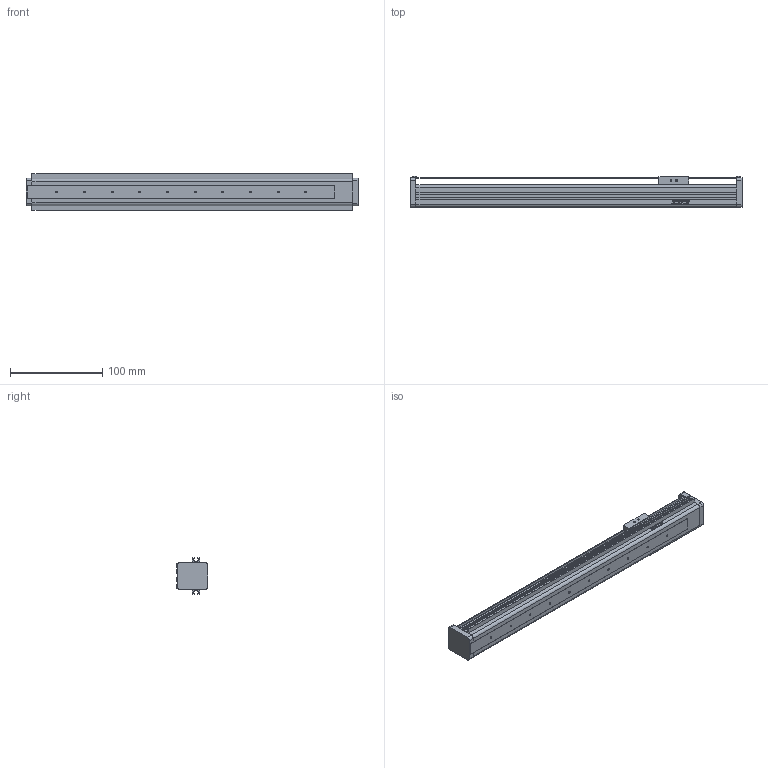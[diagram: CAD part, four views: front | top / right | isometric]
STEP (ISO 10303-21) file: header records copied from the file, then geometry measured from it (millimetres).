
FILE_DESCRIPTION(/* description */ (''),/* implementation_level */ '2;1');
FILE_NAME(/* name */ 'D:\混合母檔20191031\混和母檔\混和母檔\bin\Debug\Download\3D\KE301C-250AF0\KE301C-250AF0.stp',/* time_stamp */ '2019-11-04T13:30:23+08:00',/* author */ ('user'),/* organization */ (''),/* preprocessor_version */ 'ST-DEVELOPER v16.13',/* originating_system */ 'Autodesk Inventor 2018',/* authorisation */ '');
FILE_SCHEMA (('AUTOMOTIVE_DESIGN { 1 0 10303 214 3 1 1 }'));
Length unit declared in the file: millimetre
Products named in the file (3): KE301C-250AF0; KE30-F0-BP; KE30-SL
Assembly tree (2 placements, depth 2):
  KE301C-250AF0
    KE30-F0-BP
    KE30-SL
Bounding box: 360 x 33.67 x 39.6 mm (x, y, z)
Volume: 273292.3 mm3; surface area: 73037.1 mm2
Topology: 2 solids, 6 shells, 465 faces, 1267 edges, 830 vertices
Faces by surface type: plane 264, bspline 114, cylinder 57, cone 22, torus 8
Full cylindrical faces by diameter (mm): 2.013 x4, 2.113 x10, 2.184 x4, 2.459 x4, 2.5 x4, 3 x4, 4 x1, 4.166 x4, 5 x2, 6 x2, 18 x1, 22 x1
Entity records: 18655 total; most frequent: CARTESIAN_POINT 7946, ORIENTED_EDGE 2326, DIRECTION 1754, EDGE_CURVE 1163, VERTEX_POINT 797, LINE 784, VECTOR 784, EDGE_LOOP 568
